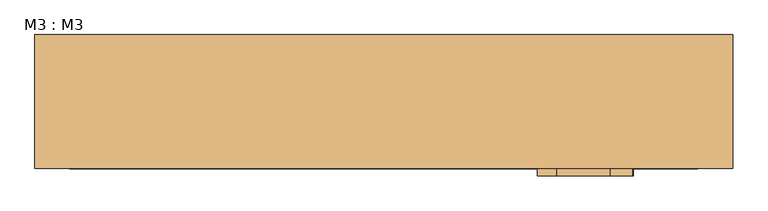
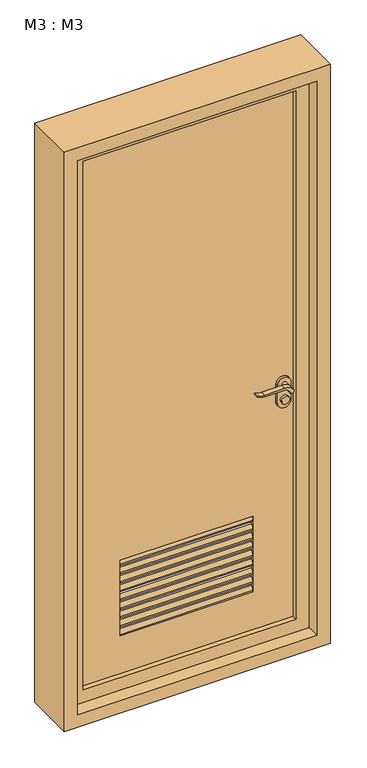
"""IFC4 building model written with IfcOpenShell, lengths in millimetres: door geometry, M3 : M3."""

import ifcopenshell
import ifcopenshell.guid

model = None  # the IFC model being written
_history = None  # IfcOwnerHistory: only IFC2X3 demands one
_inside = {}  # id of a spatial element -> (the spatial element, [elements in it])
_under = {}  # id of a project, library or spatial element -> (it, [spatial elements below it])
_declared = {}  # id of a project -> (the project, [libraries it declares])
_typed = {}  # id of a type object -> (the type object, [elements of that type])
_made_of = {}  # id of a material, layer set ... -> (it, [elements and type objects made of it])


def new_model(schema):
    """Start an empty IFC model of exactly this schema.

    Asked for "IFC4X3", IfcOpenShell would pick the latest addendum, in which some entities
    have other attributes; the version numbers below select the first issue.
    IFC2X3 requires an IfcOwnerHistory on every rooted entity: one is made here for all.
    """
    global model, _history
    if schema == "IFC4X3":
        model = ifcopenshell.file(schema_version=(4, 3, 0, 0))
    else:
        model = ifcopenshell.file(schema=schema)
    _inside.clear()
    _under.clear()
    _declared.clear()
    _typed.clear()
    _made_of.clear()
    _history = None
    if model.schema == "IFC2X3":
        org = make("IfcOrganization", Name="unknown")
        user = make(
            "IfcPersonAndOrganization",
            ThePerson=make("IfcPerson", FamilyName="unknown"),
            TheOrganization=org,
        )
        app = make(
            "IfcApplication",
            ApplicationDeveloper=org,
            Version="unknown",
            ApplicationFullName="unknown",
            ApplicationIdentifier="unknown",
        )
        _history = make(
            "IfcOwnerHistory",
            OwningUser=user,
            OwningApplication=app,
            ChangeAction="ADDED",
            CreationDate=0,
        )
    return model


def make(cls, **values):
    """One entity of the class cls with the attributes given. An attribute that is None is left unset."""
    return model.create_entity(
        cls, **{name: value for name, value in values.items() if value is not None}
    )


def rooted(cls, **values):
    """An entity with a GlobalId (a new one), such as an element, a storey or a relation."""
    return make(cls, GlobalId=ifcopenshell.guid.new(), OwnerHistory=_history, **values)


def si_unit(unit_type, name, prefix=None):
    """IfcSIUnit, for example si_unit("LENGTHUNIT", "METRE", prefix="MILLI")."""
    return make("IfcSIUnit", UnitType=unit_type, Prefix=prefix, Name=name)


def assignment(units):
    """IfcUnitAssignment: the units of a project."""
    return None if units is None else make("IfcUnitAssignment", Units=units)


def point(xyz):
    """IfcCartesianPoint."""
    return None if xyz is None else make("IfcCartesianPoint", Coordinates=xyz)


def direction(xyz):
    """IfcDirection."""
    return None if xyz is None else make("IfcDirection", DirectionRatios=xyz)


def frame(location, z_axis=None, x_axis=None):
    """IfcAxis2Placement3D, a coordinate frame: its origin and axes. An axis left out is left unset."""
    return make(
        "IfcAxis2Placement3D",
        Location=point(location),
        Axis=direction(z_axis),
        RefDirection=direction(x_axis),
    )


def frame_2d(location, x_axis=None):
    """IfcAxis2Placement2D, a coordinate frame in the plane: its origin and x axis."""
    return make(
        "IfcAxis2Placement2D", Location=point(location), RefDirection=direction(x_axis)
    )


def origin():
    """The frame at (0, 0, 0) with its axes left unset."""
    return frame((0.0, 0.0, 0.0))


def place(relative_to, where):
    """IfcLocalPlacement: puts the frame where relative to a parent placement (None: the world)."""
    return make(
        "IfcLocalPlacement", PlacementRelTo=relative_to, RelativePlacement=where
    )


def context(
    kind, dimensions, precision=None, world=None, true_north=None, identifier=None
):
    """IfcGeometricRepresentationContext, for example the 3D "Model" context."""
    return make(
        "IfcGeometricRepresentationContext",
        ContextIdentifier=identifier,
        ContextType=kind,
        CoordinateSpaceDimension=dimensions,
        Precision=precision,
        WorldCoordinateSystem=world,
        TrueNorth=true_north,
    )


def project(units=None, contexts=None):
    """IfcProject with its units and contexts."""
    return rooted(
        "IfcProject",
        Name="project",
        RepresentationContexts=contexts,
        UnitsInContext=assignment(units),
    )


def spatial(cls, under=None, at=None, **own):
    """A site, building, storey or space (cls), placed at a placement, below another one or the project."""
    s = rooted(cls, ObjectPlacement=at, **own)
    if under is not None:
        _under.setdefault(under.id(), (under, []))[1].append(s)
    return s


def polyline(points):
    """IfcPolyline through the points."""
    return make("IfcPolyline", Points=[point(p) for p in points])


def circle_curve(where, radius):
    """IfcCircle in the frame where."""
    return make("IfcCircle", Position=where, Radius=radius)


def trimmed(basis, trim1, trim2, sense, master):
    """IfcTrimmedCurve: the piece of a basis curve between two trims."""
    return make(
        "IfcTrimmedCurve",
        BasisCurve=basis,
        Trim1=trim1,
        Trim2=trim2,
        SenseAgreement=sense,
        MasterRepresentation=master,
    )


def segment(curve, same_sense, transition):
    """IfcCompositeCurveSegment."""
    return make(
        "IfcCompositeCurveSegment",
        Transition=transition,
        SameSense=same_sense,
        ParentCurve=curve,
    )


def composite_curve(segments, self_intersect=None):
    """IfcCompositeCurve: segments joined end to end."""
    return make("IfcCompositeCurve", Segments=segments, SelfIntersect=self_intersect)


def outline(outer, holes=None, kind="AREA"):
    """IfcArbitraryClosedProfileDef: a profile drawn as a closed curve; with holes, ...WithVoids."""
    if holes is None:
        return make("IfcArbitraryClosedProfileDef", ProfileType=kind, OuterCurve=outer)
    return make(
        "IfcArbitraryProfileDefWithVoids",
        ProfileType=kind,
        OuterCurve=outer,
        InnerCurves=holes,
    )


def extrude(swept, where, along, depth):
    """IfcExtrudedAreaSolid: the profile swept, set in the frame where, extruded along a direction by depth."""
    return make(
        "IfcExtrudedAreaSolid",
        SweptArea=swept,
        Position=where,
        ExtrudedDirection=direction(along),
        Depth=depth,
    )


def shape(context_of_items, identifier, shape_type, items):
    """IfcShapeRepresentation: the items that make up one representation, for example the "Body"."""
    return make(
        "IfcShapeRepresentation",
        ContextOfItems=context_of_items,
        RepresentationIdentifier=identifier,
        RepresentationType=shape_type,
        Items=items,
    )


def source(mapping_origin, context_of_items, identifier, shape_type, items):
    """IfcRepresentationMap: a shape defined once, which mapped items show again and again."""
    return make(
        "IfcRepresentationMap",
        MappingOrigin=mapping_origin,
        MappedRepresentation=shape(context_of_items, identifier, shape_type, items),
    )


def transform(
    local_origin,
    x_axis=None,
    y_axis=None,
    z_axis=None,
    scale=None,
    scale2=None,
    scale3=None,
    uniform=True,
):
    """IfcCartesianTransformationOperator3D, or its non-uniform kind. x_axis, y_axis, z_axis: its Axis1, 2, 3."""
    if uniform:
        return make(
            "IfcCartesianTransformationOperator3D",
            Axis1=direction(x_axis),
            Axis2=direction(y_axis),
            LocalOrigin=point(local_origin),
            Scale=scale,
            Axis3=direction(z_axis),
        )
    return make(
        "IfcCartesianTransformationOperator3DnonUniform",
        Axis1=direction(x_axis),
        Axis2=direction(y_axis),
        LocalOrigin=point(local_origin),
        Scale=scale,
        Axis3=direction(z_axis),
        Scale2=scale2,
        Scale3=scale3,
    )


def mapped(mapping_source, mapping_target):
    """IfcMappedItem: shows the shape of a source again, moved by a transform."""
    return make(
        "IfcMappedItem", MappingSource=mapping_source, MappingTarget=mapping_target
    )


def made_of(thing, what):
    """Note that an element or type object is made of a material, layer set ...; save() writes the relation."""
    if what is not None:
        _made_of.setdefault(what.id(), (what, []))[1].append(thing)
    return thing


def element(
    cls,
    number,
    at=None,
    inside=None,
    cuts=None,
    type_object=None,
    material=None,
    context=None,
    identifier="Body",
    shape_type=None,
    held_by="IfcProductDefinitionShape",
    body=None,
    shapes=None,
    **own,
):
    """One element of the class cls, such as IfcWall. Its Tag is "e" and its number.

    at: its placement. inside: the storey or other place that contains it. cuts: it is an
    opening in that element (IfcRelVoidsElement). A single representation is given by context,
    identifier, shape_type and body (its items); several are given by shapes. held_by: the class
    of the entity that holds the representations. save() writes the other relations.
    """
    e = rooted(cls, Tag="e%d" % number, ObjectPlacement=at, **own)
    if body is not None:
        shapes = [shape(context, identifier, shape_type, body)]
    if shapes is not None:
        e.Representation = make(held_by, Representations=shapes)
    if inside is not None:
        _inside.setdefault(inside.id(), (inside, []))[1].append(e)
    if cuts is not None:
        rooted(
            "IfcRelVoidsElement", RelatingBuildingElement=cuts, RelatedOpeningElement=e
        )
    if type_object is not None:
        _typed.setdefault(type_object.id(), (type_object, []))[1].append(e)
    return made_of(e, material)


def aggregate(whole, parts):
    """IfcRelAggregates: a whole, such as a stair, and the parts it consists of."""
    return rooted("IfcRelAggregates", RelatingObject=whole, RelatedObjects=parts)


def save(model, path):
    """Write the relations noted so far, then the file.

    IfcRelAggregates (storeys below a building ...), IfcRelContainedInSpatialStructure (elements
    in a storey), IfcRelDefinesByType, IfcRelAssociatesMaterial and IfcRelDeclares: one each for
    every whole, place, type object, material and project.
    """
    for whole, parts in _under.values():
        aggregate(whole, parts)
    for where, things in _inside.values():
        rooted(
            "IfcRelContainedInSpatialStructure",
            RelatedElements=things,
            RelatingStructure=where,
        )
    for kind, things in _typed.values():
        rooted("IfcRelDefinesByType", RelatedObjects=things, RelatingType=kind)
    for what, things in _made_of.values():
        rooted("IfcRelAssociatesMaterial", RelatedObjects=things, RelatingMaterial=what)
    for by, libraries in _declared.values():
        rooted("IfcRelDeclares", RelatingContext=by, RelatedDefinitions=libraries)
    model.write(path)


def m3_m3_9c525ee5(model_context):
    return source(origin(), model_context, "Body", "SweptSolid", [
        extrude(outline(polyline([(4.7131078, 515.037841), (4.7131078, 509.447671), (-5.2868922, 494.447671), (-5.2868922, 500.037841), (4.7131078, 515.037841)])), frame((-250.0, 0.0, 0.0), z_axis=(1.0, 0.0, 0.0), x_axis=(0.0, 1.0, 0.0)), (0.0, 0.0, 1.0), 500.0),
        extrude(outline(polyline([(4.7131078, 480.1116122), (4.7131078, 474.5214423), (-5.2868922, 459.5214423), (-5.2868922, 465.1116122), (4.7131078, 480.1116122)])), frame((-250.0, 0.0, 0.0), z_axis=(1.0, 0.0, 0.0), x_axis=(0.0, 1.0, 0.0)), (0.0, 0.0, 1.0), 500.0),
        extrude(outline(polyline([(4.7131078, 445.1853834), (4.7131078, 439.5952135), (-5.2868922, 424.5952135), (-5.2868922, 430.1853834), (4.7131078, 445.1853834)])), frame((-250.0, 0.0, 0.0), z_axis=(1.0, 0.0, 0.0), x_axis=(0.0, 1.0, 0.0)), (0.0, 0.0, 1.0), 500.0),
        extrude(outline(polyline([(4.7131078, 410.2591547), (4.7131078, 404.6689847), (-5.2868922, 389.6689847), (-5.2868922, 395.2591547), (4.7131078, 410.2591547)])), frame((-250.0, 0.0, 0.0), z_axis=(1.0, 0.0, 0.0), x_axis=(0.0, 1.0, 0.0)), (0.0, 0.0, 1.0), 500.0),
        extrude(outline(polyline([(4.7131078, 375.3329259), (4.7131078, 369.742756), (-5.2868922, 354.742756), (-5.2868922, 360.3329259), (4.7131078, 375.3329259)])), frame((-250.0, 0.0, 0.0), z_axis=(1.0, 0.0, 0.0), x_axis=(0.0, 1.0, 0.0)), (0.0, 0.0, 1.0), 500.0),
        extrude(outline(polyline([(4.7131078, 340.4066972), (4.7131078, 334.8165272), (-5.2868922, 319.8165272), (-5.2868922, 325.4066972), (4.7131078, 340.4066972)])), frame((-250.0, 0.0, 0.0), z_axis=(1.0, 0.0, 0.0), x_axis=(0.0, 1.0, 0.0)), (0.0, 0.0, 1.0), 500.0),
        extrude(outline(polyline([(4.7131078, 305.4804684), (4.7131078, 299.8902985), (-5.2868922, 284.8902985), (-5.2868922, 290.4804684), (4.7131078, 305.4804684)])), frame((-250.0, 0.0, 0.0), z_axis=(1.0, 0.0, 0.0), x_axis=(0.0, 1.0, 0.0)), (0.0, 0.0, 1.0), 500.0),
        extrude(outline(polyline([(4.7131078, 549.9640697), (4.7131078, 544.3738998), (-5.2868922, 529.3738998), (-5.2868922, 534.9640697), (4.7131078, 549.9640697)])), frame((-250.0, 0.0, 0.0), z_axis=(1.0, 0.0, 0.0), x_axis=(0.0, 1.0, 0.0)), (0.0, 0.0, 1.0), 500.0),
        extrude(outline(polyline([(4.7131078, 270.5542397), (4.7131078, 264.9640697), (-5.2868922, 249.9640697), (-5.2868922, 255.5542397), (4.7131078, 270.5542397)])), frame((-250.0, 0.0, 0.0), z_axis=(1.0, 0.0, 0.0), x_axis=(0.0, 1.0, 0.0)), (0.0, 0.0, 1.0), 500.0),
        extrude(outline(composite_curve([segment(trimmed(circle_curve(frame_2d((1000.0, 350.0)), 15.0), [point((1000.0, 335.0))], [point((1000.0, 365.0))], False, "CARTESIAN"), True, "CONTINUOUS"), segment(trimmed(circle_curve(frame_2d((1000.0, 350.0)), 15.0), [point((1000.0, 365.0))], [point((1000.0, 335.0))], False, "CARTESIAN"), True, "CONTINUOUS")], self_intersect=False)), frame((0.0, -45.0, 0.0), z_axis=(0.0, 1.0, 0.0), x_axis=(0.0, 0.0, 1.0)), (0.0, 0.0, 1.0), 10.0),
        extrude(outline(composite_curve([segment(trimmed(circle_curve(frame_2d((1000.0, 350.0)), 15.0), [point((1000.0, 335.0))], [point((1000.0, 365.0))], False, "CARTESIAN"), True, "CONTINUOUS"), segment(trimmed(circle_curve(frame_2d((1000.0, 350.0)), 15.0), [point((1000.0, 365.0))], [point((1000.0, 335.0))], False, "CARTESIAN"), True, "CONTINUOUS")], self_intersect=False)), frame((0.0, 35.0, 0.0), z_axis=(0.0, 1.0, 0.0), x_axis=(0.0, 0.0, 1.0)), (0.0, 0.0, 1.0), 10.0),
        extrude(outline(composite_curve([segment(trimmed(circle_curve(frame_2d((1042.7555521, 326.3324871)), 37.2832219), [point((1064.6523287, 356.5081363))], [point((1080.0, 324.6325667))], False, "CARTESIAN"), True, "CONTINUOUS"), segment(polyline([(1080.0, 324.6325667), (1080.0, 248.3564091)]), True, "CONTINUOUS"), segment(trimmed(circle_curve(frame_2d((1163.2850638, 248.4227909)), 83.2850902), [point((1080.0, 248.3564091))], [point((1085.0, 220.0))], True, "CARTESIAN"), True, "CONTINUOUS"), segment(polyline([(1085.0, 220.0), (1082.2135558, 220.0)]), True, "CONTINUOUS"), segment(trimmed(circle_curve(frame_2d((1132.2709207, 251.9396612)), 59.3791355), [point((1082.2135558, 220.0))], [point((1073.0, 248.3564091))], False, "CARTESIAN"), True, "CONTINUOUS"), segment(polyline([(1073.0, 248.3564091), (1073.0, 324.6138099)]), True, "CONTINUOUS"), segment(trimmed(circle_curve(frame_2d((1054.8738613, 324.6138099)), 18.1261387), [point((1073.0, 324.6138099))], [point((1060.0, 342.0))], True, "CARTESIAN"), True, "CONTINUOUS"), segment(trimmed(circle_curve(frame_2d((1060.0, 350.0)), 8.0), [point((1060.0, 342.0))], [point((1064.6523287, 356.5081363))], False, "CARTESIAN"), True, "CONTINUOUS")], self_intersect=False)), frame((0.0, -85.0, 0.0), z_axis=(0.0, 1.0, 0.0), x_axis=(0.0, 0.0, 1.0)), (0.0, 0.0, 1.0), 20.0),
        extrude(outline(composite_curve([segment(trimmed(circle_curve(frame_2d((1060.0, 350.0)), 8.0), [point((1059.9999903, 342.0))], [point((1064.6523287, 356.5081363))], False, "CARTESIAN"), True, "CONTINUOUS"), segment(trimmed(circle_curve(frame_2d((1042.7555521, 326.3324871)), 37.2832219), [point((1064.6523287, 356.5081363))], [point((1080.0, 324.6325667))], False, "CARTESIAN"), True, "CONTINUOUS"), segment(polyline([(1080.0, 324.6325667), (1080.0, 248.3564091)]), True, "CONTINUOUS"), segment(trimmed(circle_curve(frame_2d((1163.2850638, 248.4227909)), 83.2850902), [point((1080.0, 248.3564091))], [point((1085.0, 220.0))], True, "CARTESIAN"), True, "CONTINUOUS"), segment(polyline([(1085.0, 220.0), (1082.2135558, 220.0)]), True, "CONTINUOUS"), segment(trimmed(circle_curve(frame_2d((1132.2709207, 251.9396612)), 59.3791355), [point((1082.2135558, 220.0))], [point((1073.0, 248.3564091))], False, "CARTESIAN"), True, "CONTINUOUS"), segment(polyline([(1073.0, 248.3564091), (1073.0, 324.6138122)]), True, "CONTINUOUS"), segment(trimmed(circle_curve(frame_2d((1054.8738682, 324.6138122)), 18.1261318), [point((1073.0, 324.6138122))], [point((1059.9999903, 342.0))], True, "CARTESIAN"), True, "CONTINUOUS")], self_intersect=False)), frame((0.0, 65.0, 0.0), z_axis=(0.0, 1.0, 0.0), x_axis=(0.0, 0.0, 1.0)), (0.0, 0.0, 1.0), 20.0),
        extrude(outline(composite_curve([segment(trimmed(circle_curve(frame_2d((1060.0, 350.0)), 8.0), [point((1060.0, 342.0))], [point((1060.0, 358.0))], False, "CARTESIAN"), True, "CONTINUOUS"), segment(trimmed(circle_curve(frame_2d((1060.0, 350.0)), 8.0), [point((1060.0, 358.0))], [point((1060.0, 342.0))], False, "CARTESIAN"), True, "CONTINUOUS")], self_intersect=False)), frame((0.0, -65.0, 0.0), z_axis=(0.0, 1.0, 0.0), x_axis=(0.0, 0.0, 1.0)), (0.0, 0.0, 1.0), 30.0),
        extrude(outline(composite_curve([segment(trimmed(circle_curve(frame_2d((1060.0, 350.0)), 8.0), [point((1060.0, 342.0))], [point((1060.0, 358.0))], False, "CARTESIAN"), True, "CONTINUOUS"), segment(trimmed(circle_curve(frame_2d((1060.0, 350.0)), 8.0), [point((1060.0, 358.0))], [point((1060.0, 342.0))], False, "CARTESIAN"), True, "CONTINUOUS")], self_intersect=False)), frame((0.0, 35.0, 0.0), z_axis=(0.0, 1.0, 0.0), x_axis=(0.0, 0.0, 1.0)), (0.0, 0.0, 1.0), 30.0),
        extrude(outline(composite_curve([segment(polyline([(990.0, 375.0), (1060.0, 375.0)]), True, "CONTINUOUS"), segment(trimmed(circle_curve(frame_2d((1060.0, 350.0)), 25.0), [point((1060.0, 375.0))], [point((1060.0, 325.0))], False, "CARTESIAN"), True, "CONTINUOUS"), segment(polyline([(1060.0, 325.0), (990.0, 325.0)]), True, "CONTINUOUS"), segment(trimmed(circle_curve(frame_2d((990.0, 350.0)), 25.0), [point((990.0, 325.0))], [point((990.0, 375.0))], False, "CARTESIAN"), True, "CONTINUOUS")], self_intersect=False)), frame((0.0, -35.0, 0.0), z_axis=(0.0, 1.0, 0.0), x_axis=(0.0, 0.0, 1.0)), (0.0, 0.0, 1.0), 10.0),
        extrude(outline(composite_curve([segment(polyline([(990.0, 375.0), (1060.0, 375.0)]), True, "CONTINUOUS"), segment(trimmed(circle_curve(frame_2d((1060.0, 350.0)), 25.0), [point((1060.0, 375.0))], [point((1060.0, 325.0))], False, "CARTESIAN"), True, "CONTINUOUS"), segment(polyline([(1060.0, 325.0), (990.0, 325.0)]), True, "CONTINUOUS"), segment(trimmed(circle_curve(frame_2d((990.0, 350.0)), 25.0), [point((990.0, 325.0))], [point((990.0, 375.0))], False, "CARTESIAN"), True, "CONTINUOUS")], self_intersect=False)), frame((0.0, 25.0, 0.0), z_axis=(0.0, 1.0, 0.0), x_axis=(0.0, 0.0, 1.0)), (0.0, 0.0, 1.0), 10.0),
        extrude(outline(polyline([(2200.0, 400.0), (2200.0, -400.0), (100.0, -400.0), (100.0, 400.0), (2200.0, 400.0)]), holes=[polyline([(549.9640697, 250.0), (249.9640697, 250.0), (249.9640697, -250.0), (549.9640697, -250.0), (549.9640697, 250.0)])]), frame((0.0, -5.2868922, 0.0), z_axis=(0.0, 1.0, 0.0), x_axis=(0.0, 0.0, 1.0)), (0.0, 0.0, 1.0), 10.0),
        extrude(outline(polyline([(2300.0, 500.0), (2300.0, -500.0), (0.0, -500.0), (0.0, 500.0), (2300.0, 500.0)]), holes=[polyline([(2250.0, 450.0), (50.0, 450.0), (50.0, -450.0), (2250.0, -450.0), (2250.0, 450.0)])]), frame((0.0, -75.0, 0.0), z_axis=(0.0, 1.0, 0.0), x_axis=(0.0, 0.0, 1.0)), (0.0, 0.0, 1.0), 192.0),
        extrude(outline(polyline([(2250.0, 450.0), (2250.0, -450.0), (50.0, -450.0), (50.0, 450.0), (2250.0, 450.0)]), holes=[polyline([(2200.0, 400.0), (100.0, 400.0), (100.0, -400.0), (2200.0, -400.0), (2200.0, 400.0)])]), frame((0.0, -25.0, 0.0), z_axis=(0.0, 1.0, 0.0), x_axis=(0.0, 0.0, 1.0)), (0.0, 0.0, 1.0), 50.0),
    ])


if __name__ == "__main__":
    model = new_model("IFC4")
    model_context = context("Model", 3, world=origin())
    ifc_project = project(units=[si_unit("LENGTHUNIT", "METRE", prefix="MILLI")], contexts=[model_context])
    site = spatial("IfcSite", under=ifc_project)
    building = spatial("IfcBuilding", under=site)
    placement = place(None, origin())
    m3_m3_shape = m3_m3_9c525ee5(model_context)
    element("IfcDoor", 1, ObjectType="M3 : M3", at=placement, inside=building, context=model_context, shape_type="MappedRepresentation", body=[
        mapped(m3_m3_shape, transform((0.0, 0.0, 0.0), x_axis=(1.0, 0.0, 0.0), y_axis=(0.0, 1.0, 0.0), z_axis=(0.0, 0.0, 1.0))),
    ])
    save(model, "model.ifc")
